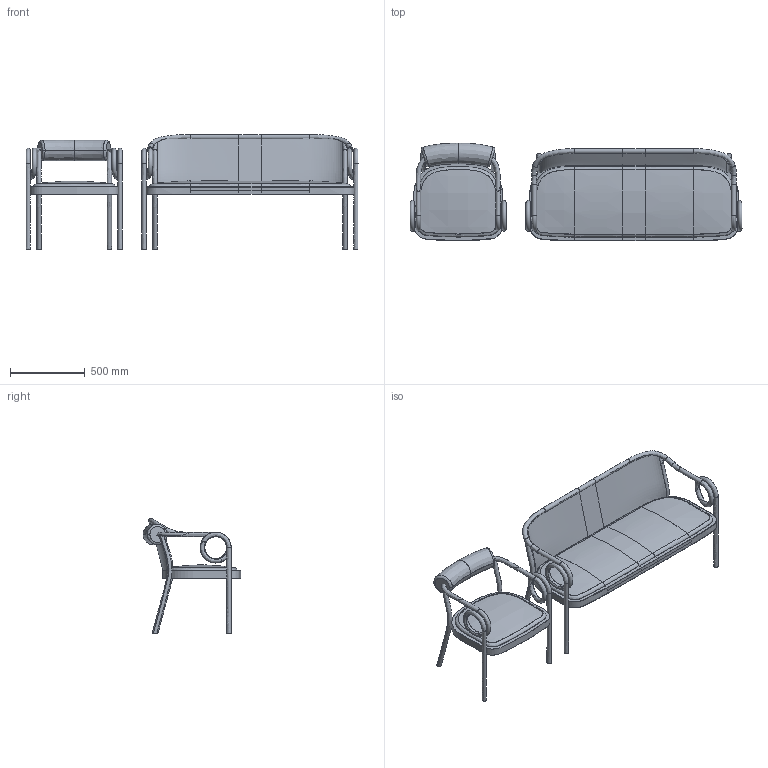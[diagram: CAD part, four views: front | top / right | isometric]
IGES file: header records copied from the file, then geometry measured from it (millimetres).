
Start section: LicomAlphaCAM
Global section: file name: D:\loop 3D_2D\Loop Coll.igs; native system: Rhinoceros ( Aug 11 2021 ); preprocessor: Trout Lake IGES 012 Aug 11 2021; date: 220527.130346; units: millimetre
Bounding box: 2228.11 x 655.8 x 771 mm (x, y, z)
Surface area: 4566627.9 mm2 (no closed solid volume)
Topology: 0 solids, 0 shells, 167 faces, 2537 edges, 2494 vertices
Faces by surface type: bspline 167
